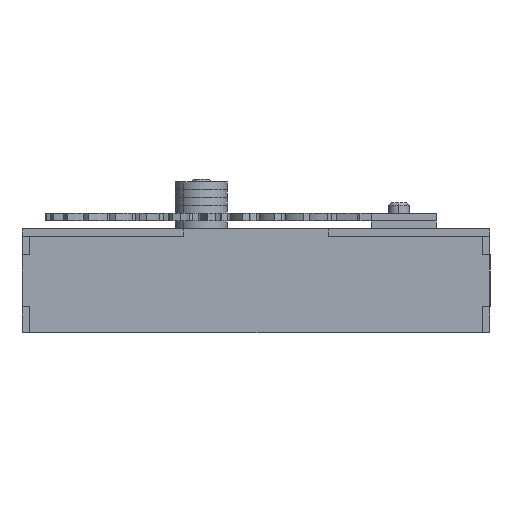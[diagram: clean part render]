
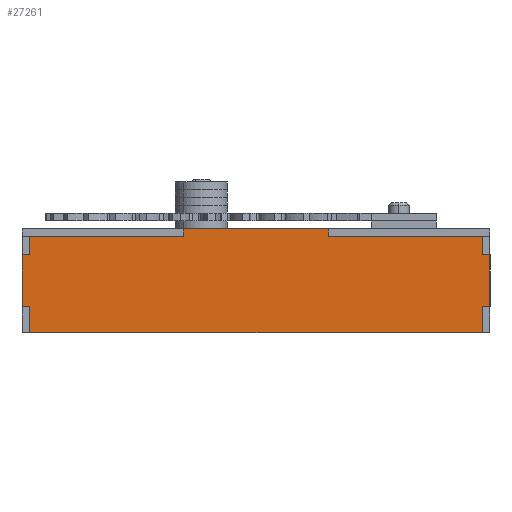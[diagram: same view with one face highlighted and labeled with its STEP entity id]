
A CAD part, left-side view. The second image highlights one B-rep face of the part: STEP entity #27261.
In plain terms, the highlighted planar face has unit normal (-1, 0, 0).
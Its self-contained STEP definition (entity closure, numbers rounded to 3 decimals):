
#444 = VECTOR ( 'NONE', #30178, 1000. ) ;
#489 = CARTESIAN_POINT ( 'NONE',  ( 0., -20., 90. ) ) ;
#597 = DIRECTION ( 'NONE',  ( 0., 0., -1. ) ) ;
#674 = LINE ( 'NONE', #11028, #29030 ) ;
#755 = EDGE_CURVE ( 'NONE', #5577, #13506, #27473, .T. ) ;
#1060 = CARTESIAN_POINT ( 'NONE',  ( 0., 20., 28. ) ) ;
#1573 = DIRECTION ( 'NONE',  ( 0., 1., 0. ) ) ;
#1636 = DIRECTION ( 'NONE',  ( 0., 0., -1. ) ) ;
#1740 = EDGE_CURVE ( 'NONE', #19589, #9594, #26323, .T. ) ;
#1883 = EDGE_CURVE ( 'NONE', #3796, #2474, #21722, .T. ) ;
#1908 = LINE ( 'NONE', #9377, #8126 ) ;
#1969 = PLANE ( 'NONE',  #10257 ) ;
#2258 = EDGE_CURVE ( 'NONE', #2474, #19389, #674, .T. ) ;
#2474 = VERTEX_POINT ( 'NONE', #17776 ) ;
#2592 = CARTESIAN_POINT ( 'NONE',  ( 0., 20., 28. ) ) ;
#2648 = ORIENTED_EDGE ( 'NONE', *, *, #755, .T. ) ;
#3139 = CARTESIAN_POINT ( 'NONE',  ( 0., 20., 90. ) ) ;
#3256 = ORIENTED_EDGE ( 'NONE', *, *, #14278, .T. ) ;
#3518 = ORIENTED_EDGE ( 'NONE', *, *, #30697, .F. ) ;
#3527 = VERTEX_POINT ( 'NONE', #11762 ) ;
#3796 = VERTEX_POINT ( 'NONE', #10714 ) ;
#3846 = DIRECTION ( 'NONE',  ( 0., 0., 1. ) ) ;
#4245 = VECTOR ( 'NONE', #19605, 1000. ) ;
#4652 = VECTOR ( 'NONE', #29325, 1000. ) ;
#4992 = VECTOR ( 'NONE', #3846, 1000. ) ;
#5451 = EDGE_CURVE ( 'NONE', #28665, #28910, #27025, .T. ) ;
#5577 = VERTEX_POINT ( 'NONE', #28181 ) ;
#5734 = DIRECTION ( 'NONE',  ( 0., 0., -1. ) ) ;
#6173 = VERTEX_POINT ( 'NONE', #19653 ) ;
#6406 = EDGE_CURVE ( 'NONE', #19589, #6173, #33425, .T. ) ;
#6497 = EDGE_CURVE ( 'NONE', #3527, #5577, #31053, .T. ) ;
#6710 = DIRECTION ( 'NONE',  ( 1., 0., 0. ) ) ;
#7055 = CARTESIAN_POINT ( 'NONE',  ( 0., 10., -87. ) ) ;
#7141 = ORIENTED_EDGE ( 'NONE', *, *, #21080, .T. ) ;
#7165 = VECTOR ( 'NONE', #5734, 1000. ) ;
#7336 = EDGE_CURVE ( 'NONE', #28665, #3527, #13739, .T. ) ;
#7897 = DIRECTION ( 'NONE',  ( 0., 0., -1. ) ) ;
#8022 = EDGE_CURVE ( 'NONE', #25694, #28910, #14122, .T. ) ;
#8126 = VECTOR ( 'NONE', #1573, 1000. ) ;
#8214 = ORIENTED_EDGE ( 'NONE', *, *, #7336, .T. ) ;
#8842 = CARTESIAN_POINT ( 'NONE',  ( 0., 10., -90. ) ) ;
#9377 = CARTESIAN_POINT ( 'NONE',  ( 0., 20., -90. ) ) ;
#9594 = VERTEX_POINT ( 'NONE', #16332 ) ;
#9776 = FACE_OUTER_BOUND ( 'NONE', #12368, .T. ) ;
#10050 = LINE ( 'NONE', #23061, #444 ) ;
#10257 = AXIS2_PLACEMENT_3D ( 'NONE', #24828, #6710, #1636 ) ;
#10494 = DIRECTION ( 'NONE',  ( 0., 1., 0. ) ) ;
#10714 = CARTESIAN_POINT ( 'NONE',  ( 0., -10., -90. ) ) ;
#10877 = CARTESIAN_POINT ( 'NONE',  ( 0., -20., -87. ) ) ;
#11028 = CARTESIAN_POINT ( 'NONE',  ( 0., -20., -87. ) ) ;
#11170 = LINE ( 'NONE', #489, #7165 ) ;
#11277 = EDGE_CURVE ( 'NONE', #6173, #23776, #10050, .T. ) ;
#11306 = CARTESIAN_POINT ( 'NONE',  ( 0., 10., -90. ) ) ;
#11642 = CARTESIAN_POINT ( 'NONE',  ( 0., 20., 90. ) ) ;
#11762 = CARTESIAN_POINT ( 'NONE',  ( 0., 17., -28. ) ) ;
#11938 = CARTESIAN_POINT ( 'NONE',  ( 0., 17., -87. ) ) ;
#11953 = DIRECTION ( 'NONE',  ( 0., 0., -1. ) ) ;
#12365 = DIRECTION ( 'NONE',  ( 0., 0., 1. ) ) ;
#12368 = EDGE_LOOP ( 'NONE', ( #18338, #33259, #21437, #8214, #25652, #2648, #25985, #28800, #25078, #21034, #3518, #3256, #7141, #23887, #27008, #26666 ) ) ;
#12457 = CARTESIAN_POINT ( 'NONE',  ( 0., -10., 87. ) ) ;
#13314 = CARTESIAN_POINT ( 'NONE',  ( 0., 10., 90. ) ) ;
#13506 = VERTEX_POINT ( 'NONE', #7055 ) ;
#13739 = LINE ( 'NONE', #31316, #16423 ) ;
#13776 = CARTESIAN_POINT ( 'NONE',  ( 0., -10., -90. ) ) ;
#14122 = LINE ( 'NONE', #1060, #4652 ) ;
#14278 = EDGE_CURVE ( 'NONE', #16959, #19968, #23170, .T. ) ;
#14668 = CARTESIAN_POINT ( 'NONE',  ( 0., 17., 87. ) ) ;
#16195 = EDGE_CURVE ( 'NONE', #3796, #20941, #1908, .T. ) ;
#16332 = CARTESIAN_POINT ( 'NONE',  ( 0., -10., 90. ) ) ;
#16423 = VECTOR ( 'NONE', #21517, 1000. ) ;
#16803 = CARTESIAN_POINT ( 'NONE',  ( 0., 17., 87. ) ) ;
#16959 = VERTEX_POINT ( 'NONE', #19159 ) ;
#17121 = VECTOR ( 'NONE', #29689, 1000. ) ;
#17248 = VECTOR ( 'NONE', #10494, 1000. ) ;
#17776 = CARTESIAN_POINT ( 'NONE',  ( 0., -10., -87. ) ) ;
#18338 = ORIENTED_EDGE ( 'NONE', *, *, #18773, .T. ) ;
#18773 = EDGE_CURVE ( 'NONE', #23776, #25694, #27493, .T. ) ;
#18814 = DIRECTION ( 'NONE',  ( 0., -1., 0. ) ) ;
#19159 = CARTESIAN_POINT ( 'NONE',  ( 0., -20., 87. ) ) ;
#19241 = CARTESIAN_POINT ( 'NONE',  ( 0., 20., -28. ) ) ;
#19389 = VERTEX_POINT ( 'NONE', #10877 ) ;
#19410 = DIRECTION ( 'NONE',  ( 0., -1., 0. ) ) ;
#19589 = VERTEX_POINT ( 'NONE', #21530 ) ;
#19605 = DIRECTION ( 'NONE',  ( 0., 0., -1. ) ) ;
#19653 = CARTESIAN_POINT ( 'NONE',  ( 0., 10., 87. ) ) ;
#19856 = VECTOR ( 'NONE', #19410, 1000. ) ;
#19968 = VERTEX_POINT ( 'NONE', #12457 ) ;
#20425 = CARTESIAN_POINT ( 'NONE',  ( 0., 17., 28. ) ) ;
#20654 = CARTESIAN_POINT ( 'NONE',  ( 0., -20., 87. ) ) ;
#20941 = VERTEX_POINT ( 'NONE', #8842 ) ;
#21034 = ORIENTED_EDGE ( 'NONE', *, *, #2258, .T. ) ;
#21080 = EDGE_CURVE ( 'NONE', #19968, #9594, #22853, .T. ) ;
#21437 = ORIENTED_EDGE ( 'NONE', *, *, #5451, .F. ) ;
#21517 = DIRECTION ( 'NONE',  ( 0., -1., 0. ) ) ;
#21530 = CARTESIAN_POINT ( 'NONE',  ( 0., 10., 90. ) ) ;
#21722 = LINE ( 'NONE', #13776, #26831 ) ;
#22853 = LINE ( 'NONE', #33152, #27409 ) ;
#23061 = CARTESIAN_POINT ( 'NONE',  ( 0., 17., 87. ) ) ;
#23170 = LINE ( 'NONE', #20654, #17248 ) ;
#23385 = VECTOR ( 'NONE', #597, 1000. ) ;
#23776 = VERTEX_POINT ( 'NONE', #16803 ) ;
#23887 = ORIENTED_EDGE ( 'NONE', *, *, #1740, .F. ) ;
#23993 = LINE ( 'NONE', #11306, #4245 ) ;
#24085 = DIRECTION ( 'NONE',  ( 0., 0., 1. ) ) ;
#24828 = CARTESIAN_POINT ( 'NONE',  ( 0., 0., 0. ) ) ;
#25078 = ORIENTED_EDGE ( 'NONE', *, *, #1883, .T. ) ;
#25652 = ORIENTED_EDGE ( 'NONE', *, *, #6497, .T. ) ;
#25694 = VERTEX_POINT ( 'NONE', #20425 ) ;
#25985 = ORIENTED_EDGE ( 'NONE', *, *, #26576, .T. ) ;
#26323 = LINE ( 'NONE', #3139, #19856 ) ;
#26576 = EDGE_CURVE ( 'NONE', #13506, #20941, #23993, .T. ) ;
#26666 = ORIENTED_EDGE ( 'NONE', *, *, #11277, .T. ) ;
#26831 = VECTOR ( 'NONE', #24085, 1000. ) ;
#27008 = ORIENTED_EDGE ( 'NONE', *, *, #6406, .T. ) ;
#27025 = LINE ( 'NONE', #11642, #4992 ) ;
#27261 = ADVANCED_FACE ( 'NONE', ( #9776 ), #1969, .F. ) ;
#27409 = VECTOR ( 'NONE', #12365, 1000. ) ;
#27473 = LINE ( 'NONE', #11938, #17121 ) ;
#27493 = LINE ( 'NONE', #14668, #30897 ) ;
#28181 = CARTESIAN_POINT ( 'NONE',  ( 0., 17., -87. ) ) ;
#28254 = VECTOR ( 'NONE', #7897, 1000. ) ;
#28665 = VERTEX_POINT ( 'NONE', #19241 ) ;
#28698 = CARTESIAN_POINT ( 'NONE',  ( 0., 17., -87. ) ) ;
#28800 = ORIENTED_EDGE ( 'NONE', *, *, #16195, .F. ) ;
#28910 = VERTEX_POINT ( 'NONE', #2592 ) ;
#29030 = VECTOR ( 'NONE', #18814, 1000. ) ;
#29325 = DIRECTION ( 'NONE',  ( 0., 1., 0. ) ) ;
#29689 = DIRECTION ( 'NONE',  ( 0., -1., 0. ) ) ;
#30178 = DIRECTION ( 'NONE',  ( 0., 1., 0. ) ) ;
#30697 = EDGE_CURVE ( 'NONE', #16959, #19389, #11170, .T. ) ;
#30897 = VECTOR ( 'NONE', #11953, 1000. ) ;
#31053 = LINE ( 'NONE', #28698, #28254 ) ;
#31316 = CARTESIAN_POINT ( 'NONE',  ( 0., 20., -28. ) ) ;
#33152 = CARTESIAN_POINT ( 'NONE',  ( 0., -10., 90. ) ) ;
#33259 = ORIENTED_EDGE ( 'NONE', *, *, #8022, .T. ) ;
#33425 = LINE ( 'NONE', #13314, #23385 ) ;
